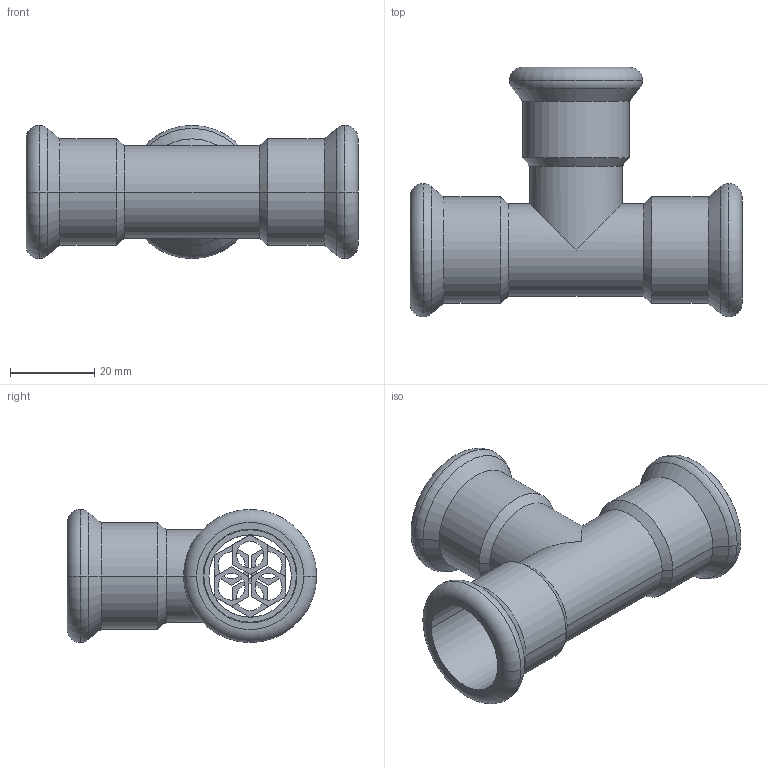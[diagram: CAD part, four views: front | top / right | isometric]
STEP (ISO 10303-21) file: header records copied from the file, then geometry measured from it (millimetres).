
FILE_DESCRIPTION(('OneSpaceDesigner STEP Export'),'2;1');
FILE_NAME('R2714 22x22x22.stp','2010-06-10T 8:37:42',(''),(''),'OneSpace Designer STEP processor for AP214 (Solid Model)','OneSpace Modeling 15.00A 14-Mar-2007 (C) CoCreate Software GmbH','');
FILE_SCHEMA(('AUTOMOTIVE_DESIGN { 1 0 10303 214 1 1 1 1 }'));
Length unit declared in the file: millimetre
Products named in the file (2): R2714_22x22x22
Assembly tree (1 placements, depth 2):
  R2714_22x22x22
    R2714_22x22x22
Bounding box: 79 x 59.35 x 31.7 mm (x, y, z)
Volume: 16275.2 mm3; surface area: 18896.4 mm2
Topology: 1 solids, 1 shells, 167 faces, 423 edges, 272 vertices
Faces by surface type: plane 90, cylinder 53, torus 12, cone 12
Entity records: 4551 total; most frequent: ORIENTED_EDGE 846, CARTESIAN_POINT 749, DIRECTION 691, EDGE_CURVE 423, VERTEX_POINT 272, VECTOR 263, LINE 263, AXIS2_PLACEMENT_3D 214
